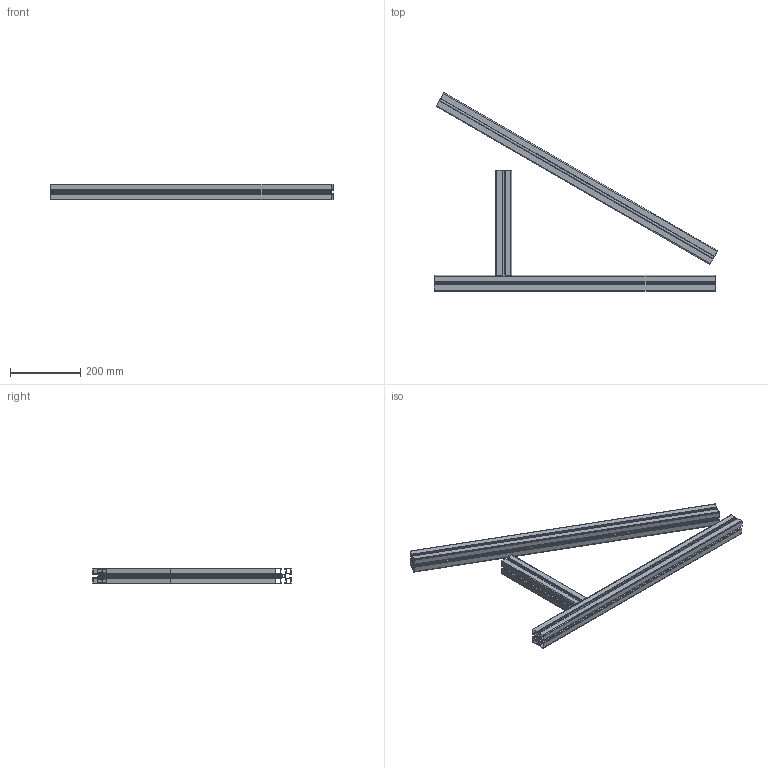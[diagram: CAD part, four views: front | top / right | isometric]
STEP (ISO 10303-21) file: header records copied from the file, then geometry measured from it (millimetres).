
FILE_DESCRIPTION (( 'STEP AP203' ), '1' );
FILE_NAME ('084.106.302.STEP', '2013-01-23T13:29:52', ( 'Alusic' ), ( 'Alusic' ), 'SwSTEP 2.0', 'SolidWorks 2011', '' );
FILE_SCHEMA (( 'CONFIG_CONTROL_DESIGN' ));
Length unit declared in the file: millimetre
Products named in the file (1): 084.106.302
Bounding box: 806.79 x 565.22 x 45 mm (x, y, z)
Volume: 854208.6 mm3; surface area: 1229226.1 mm2
Topology: 3 solids, 3 shells, 443 faces, 1302 edges, 864 vertices
Faces by surface type: plane 241, cylinder 202
Entity records: 14962 total; most frequent: CARTESIAN_POINT 2749, ORIENTED_EDGE 2604, DIRECTION 2532, EDGE_CURVE 1302, VECTOR 902, LINE 902, VERTEX_POINT 864, AXIS2_PLACEMENT_3D 815
